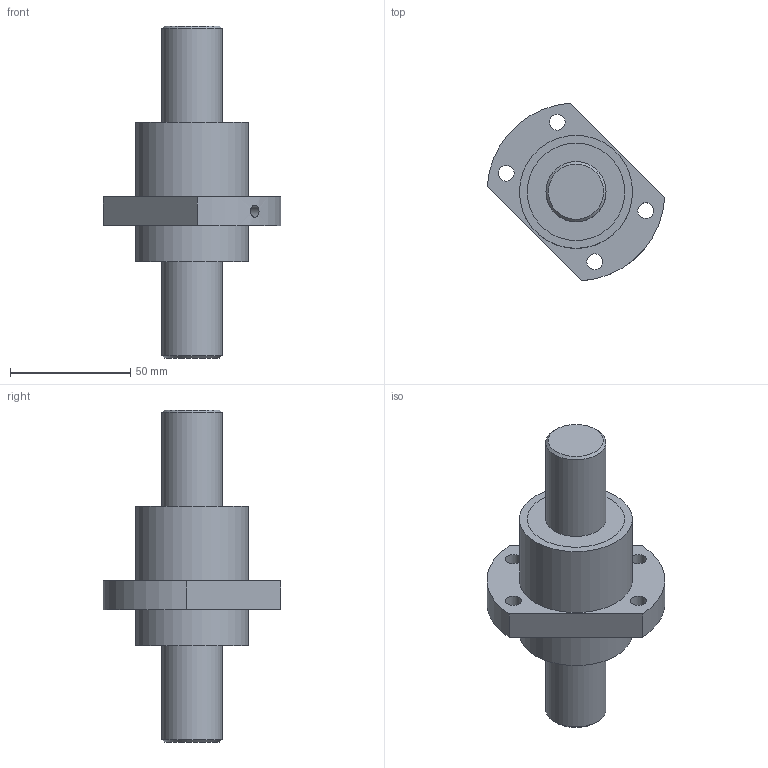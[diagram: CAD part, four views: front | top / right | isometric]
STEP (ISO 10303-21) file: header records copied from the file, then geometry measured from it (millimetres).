
FILE_DESCRIPTION(/* description */ (''),/* implementation_level */ '2;1');
FILE_NAME(/* name */ 'SFY2550.stp',/* time_stamp */ '2013-11-01T09:48:37+08:00',/* author */ (''),/* organization */ (''),/* preprocessor_version */ 'ST-DEVELOPER v11',/* originating_system */ 'SIEMENS UGS NX 6.0',/* authorisation */ '');
FILE_SCHEMA (('CONFIG_CONTROL_DESIGN'));
Length unit declared in the file: millimetre
Products named in the file (1): fann640Fk5nl
Bounding box: 73.86 x 73.86 x 138 mm (x, y, z)
Volume: 157243.9 mm3; surface area: 39299 mm2
Topology: 4 solids, 4 shells, 52 faces, 92 edges, 62 vertices
Faces by surface type: cylinder 27, plane 23, cone 2
Full cylindrical faces by diameter (mm): 3 x1, 5 x1, 6.6 x4, 25 x4, 38 x4, 40.5 x4, 42 x4, 47 x2
Entity records: 1340 total; most frequent: CARTESIAN_POINT 288, DIRECTION 220, ORIENTED_EDGE 124, EDGE_LOOP 106, AXIS2_PLACEMENT_3D 106, FACE_BOUND 100, EDGE_CURVE 62, VERTEX_POINT 58
